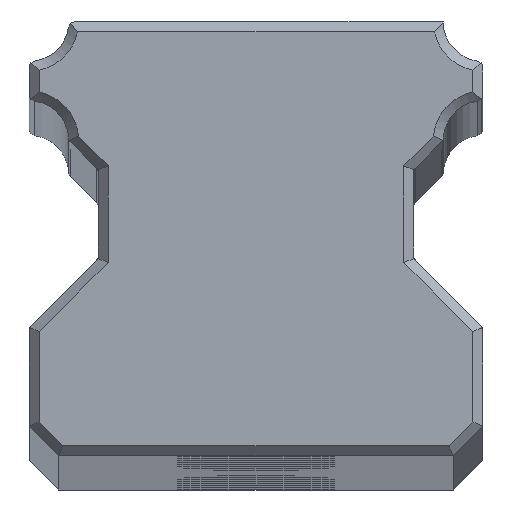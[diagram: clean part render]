
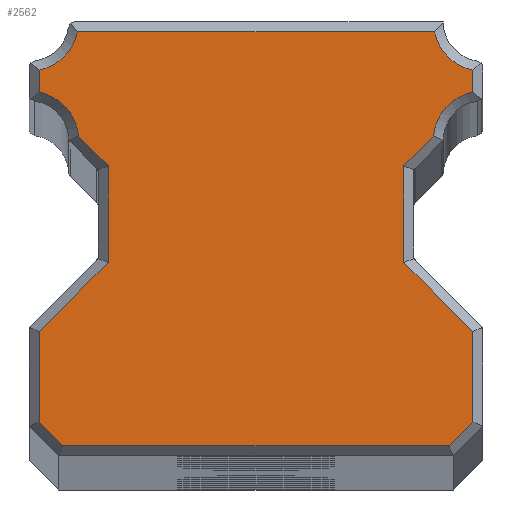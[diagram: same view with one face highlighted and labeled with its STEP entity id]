
A CAD part, top view. The second image highlights one B-rep face of the part: STEP entity #2562.
In plain terms, the highlighted planar face has unit normal (0, 0, 1).
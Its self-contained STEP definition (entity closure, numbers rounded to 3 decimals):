
#69=CIRCLE('',#2718,2.5);
#73=CIRCLE('',#2764,2.5);
#92=CIRCLE('',#2797,2.5);
#93=CIRCLE('',#2800,2.5);
#304=PLANE('',#2804);
#387=FACE_OUTER_BOUND('',#558,.T.);
#558=EDGE_LOOP('',(#2001,#2002,#2003,#2004,#2005,#2006,#2007,#2008,#2009,
#2010,#2011,#2012,#2013,#2014,#2015,#2016,#2017,#2018));
#711=LINE('',#3918,#886);
#720=LINE('',#3986,#895);
#729=LINE('',#4067,#904);
#756=LINE('',#4188,#931);
#763=LINE('',#4301,#938);
#765=LINE('',#4310,#940);
#770=LINE('',#4320,#945);
#774=LINE('',#4327,#949);
#776=LINE('',#4332,#951);
#778=LINE('',#4335,#953);
#780=LINE('',#4338,#955);
#782=LINE('',#4342,#957);
#784=LINE('',#4345,#959);
#785=LINE('',#4350,#960);
#886=VECTOR('',#3068,10.);
#895=VECTOR('',#3093,10.);
#904=VECTOR('',#3134,10.);
#931=VECTOR('',#3221,10.);
#938=VECTOR('',#3290,10.);
#940=VECTOR('',#3294,10.);
#945=VECTOR('',#3301,10.);
#949=VECTOR('',#3307,10.);
#951=VECTOR('',#3311,10.);
#953=VECTOR('',#3315,10.);
#955=VECTOR('',#3319,10.);
#957=VECTOR('',#3323,10.);
#959=VECTOR('',#3327,10.);
#960=VECTOR('',#3336,10.);
#1106=VERTEX_POINT('',#3915);
#1107=VERTEX_POINT('',#3917);
#1121=VERTEX_POINT('',#3980);
#1122=VERTEX_POINT('',#3985);
#1130=VERTEX_POINT('',#4034);
#1138=VERTEX_POINT('',#4066);
#1173=VERTEX_POINT('',#4182);
#1174=VERTEX_POINT('',#4187);
#1182=VERTEX_POINT('',#4238);
#1205=VERTEX_POINT('',#4300);
#1206=VERTEX_POINT('',#4307);
#1207=VERTEX_POINT('',#4309);
#1210=VERTEX_POINT('',#4317);
#1211=VERTEX_POINT('',#4319);
#1213=VERTEX_POINT('',#4325);
#1214=VERTEX_POINT('',#4329);
#1215=VERTEX_POINT('',#4331);
#1216=VERTEX_POINT('',#4341);
#1355=EDGE_CURVE('',#1106,#1107,#711,.T.);
#1374=EDGE_CURVE('',#1121,#1122,#720,.T.);
#1386=EDGE_CURVE('',#1122,#1130,#69,.T.);
#1398=EDGE_CURVE('',#1130,#1138,#729,.T.);
#1447=EDGE_CURVE('',#1173,#1174,#756,.T.);
#1459=EDGE_CURVE('',#1174,#1182,#73,.T.);
#1485=EDGE_CURVE('',#1182,#1205,#763,.T.);
#1488=EDGE_CURVE('',#1206,#1207,#765,.T.);
#1493=EDGE_CURVE('',#1210,#1211,#770,.T.);
#1497=EDGE_CURVE('',#1213,#1210,#774,.T.);
#1499=EDGE_CURVE('',#1214,#1215,#776,.T.);
#1501=EDGE_CURVE('',#1215,#1213,#778,.T.);
#1503=EDGE_CURVE('',#1138,#1214,#780,.T.);
#1505=EDGE_CURVE('',#1211,#1216,#782,.T.);
#1507=EDGE_CURVE('',#1216,#1206,#784,.T.);
#1509=EDGE_CURVE('',#1205,#1121,#92,.T.);
#1510=EDGE_CURVE('',#1207,#1106,#785,.T.);
#1511=EDGE_CURVE('',#1107,#1173,#93,.T.);
#2001=ORIENTED_EDGE('',*,*,#1499,.F.);
#2002=ORIENTED_EDGE('',*,*,#1503,.F.);
#2003=ORIENTED_EDGE('',*,*,#1398,.F.);
#2004=ORIENTED_EDGE('',*,*,#1386,.F.);
#2005=ORIENTED_EDGE('',*,*,#1374,.F.);
#2006=ORIENTED_EDGE('',*,*,#1509,.F.);
#2007=ORIENTED_EDGE('',*,*,#1485,.F.);
#2008=ORIENTED_EDGE('',*,*,#1459,.F.);
#2009=ORIENTED_EDGE('',*,*,#1447,.F.);
#2010=ORIENTED_EDGE('',*,*,#1511,.F.);
#2011=ORIENTED_EDGE('',*,*,#1355,.F.);
#2012=ORIENTED_EDGE('',*,*,#1510,.F.);
#2013=ORIENTED_EDGE('',*,*,#1488,.F.);
#2014=ORIENTED_EDGE('',*,*,#1507,.F.);
#2015=ORIENTED_EDGE('',*,*,#1505,.F.);
#2016=ORIENTED_EDGE('',*,*,#1493,.F.);
#2017=ORIENTED_EDGE('',*,*,#1497,.F.);
#2018=ORIENTED_EDGE('',*,*,#1501,.F.);
#2562=ADVANCED_FACE('',(#387),#304,.T.);
#2718=AXIS2_PLACEMENT_3D('',#4035,#3112,#3113);
#2764=AXIS2_PLACEMENT_3D('',#4239,#3240,#3241);
#2797=AXIS2_PLACEMENT_3D('',#4348,#3332,#3333);
#2800=AXIS2_PLACEMENT_3D('',#4352,#3339,#3340);
#2804=AXIS2_PLACEMENT_3D('',#4356,#3347,#3348);
#3068=DIRECTION('',(-0.707,0.707,0.));
#3093=DIRECTION('',(0.,-1.,0.));
#3112=DIRECTION('center_axis',(0.,0.,1.));
#3113=DIRECTION('ref_axis',(0.,1.,0.));
#3134=DIRECTION('',(-0.707,-0.707,0.));
#3221=DIRECTION('',(0.,1.,0.));
#3240=DIRECTION('center_axis',(0.,0.,1.));
#3241=DIRECTION('ref_axis',(1.,0.,0.));
#3290=DIRECTION('',(1.,0.,0.));
#3294=DIRECTION('',(0.707,0.707,0.));
#3301=DIRECTION('',(-1.,0.,0.));
#3307=DIRECTION('',(-0.707,-0.707,0.));
#3311=DIRECTION('',(0.707,-0.707,0.));
#3315=DIRECTION('',(0.,-1.,0.));
#3319=DIRECTION('',(0.,-1.,0.));
#3323=DIRECTION('',(-0.707,0.707,0.));
#3327=DIRECTION('',(0.,1.,0.));
#3332=DIRECTION('center_axis',(0.,0.,1.));
#3333=DIRECTION('ref_axis',(-1.,0.,0.));
#3336=DIRECTION('',(0.,1.,0.));
#3339=DIRECTION('center_axis',(0.,0.,1.));
#3340=DIRECTION('ref_axis',(0.,1.,0.));
#3347=DIRECTION('center_axis',(0.,0.,1.));
#3348=DIRECTION('ref_axis',(1.,0.,0.));
#3915=CARTESIAN_POINT('',(-7.5,14.707,0.));
#3917=CARTESIAN_POINT('',(-9.009,16.216,0.));
#3918=CARTESIAN_POINT('',(-4.084,11.291,0.));
#3980=CARTESIAN_POINT('',(11.,19.551,0.));
#3985=CARTESIAN_POINT('',(11.,18.449,0.));
#3986=CARTESIAN_POINT('',(11.,15.5,0.));
#4034=CARTESIAN_POINT('',(9.009,16.216,0.));
#4035=CARTESIAN_POINT('Origin',(11.5,16.,0.));
#4066=CARTESIAN_POINT('',(7.5,14.707,0.));
#4067=CARTESIAN_POINT('',(6.959,14.166,0.));
#4182=CARTESIAN_POINT('',(-11.,18.449,0.));
#4187=CARTESIAN_POINT('',(-11.,19.551,0.));
#4188=CARTESIAN_POINT('',(-11.,15.5,0.));
#4238=CARTESIAN_POINT('',(-9.051,21.5,0.));
#4239=CARTESIAN_POINT('Origin',(-11.5,22.,0.));
#4300=CARTESIAN_POINT('',(9.051,21.5,0.));
#4301=CARTESIAN_POINT('',(2.875,21.5,0.));
#4307=CARTESIAN_POINT('',(-11.,6.293,0.));
#4309=CARTESIAN_POINT('',(-7.5,9.793,0.));
#4310=CARTESIAN_POINT('',(-3.959,13.334,0.));
#4317=CARTESIAN_POINT('',(9.793,0.5,0.));
#4319=CARTESIAN_POINT('',(-9.793,0.5,0.));
#4320=CARTESIAN_POINT('',(7.875,0.5,0.));
#4325=CARTESIAN_POINT('',(11.,1.707,0.));
#4327=CARTESIAN_POINT('',(12.084,2.791,0.));
#4329=CARTESIAN_POINT('',(7.5,9.793,0.));
#4331=CARTESIAN_POINT('',(11.,6.293,0.));
#4332=CARTESIAN_POINT('',(6.834,10.459,0.));
#4335=CARTESIAN_POINT('',(11.,8.75,0.));
#4338=CARTESIAN_POINT('',(7.5,12.75,0.));
#4341=CARTESIAN_POINT('',(-11.,1.707,0.));
#4342=CARTESIAN_POINT('',(-9.209,-0.084,0.));
#4345=CARTESIAN_POINT('',(-11.,8.75,0.));
#4348=CARTESIAN_POINT('Origin',(11.5,22.,0.));
#4350=CARTESIAN_POINT('',(-7.5,12.75,0.));
#4352=CARTESIAN_POINT('Origin',(-11.5,16.,0.));
#4356=CARTESIAN_POINT('Origin',(5.75,11.,0.));
